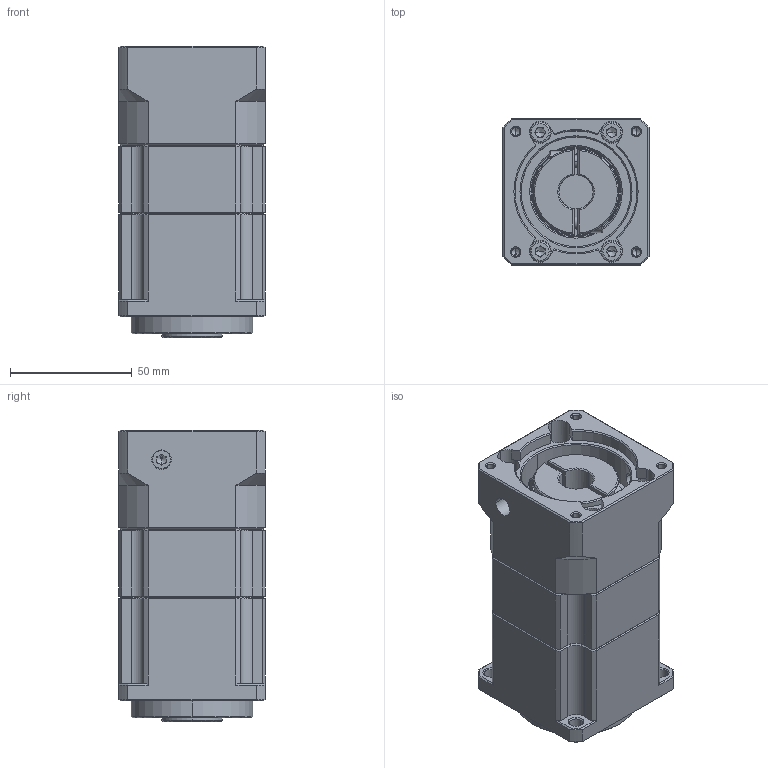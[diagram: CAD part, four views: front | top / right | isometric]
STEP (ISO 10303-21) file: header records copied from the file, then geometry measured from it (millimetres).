
FILE_DESCRIPTION (( 'STEP AP214' ), '1' );
FILE_NAME ('ZPB060-K16-L2-P1-14-50-70-M4.step', '2024-04-24T07:36:03', ( '' ), ( '' ), 'SwSTEP 2.0', 'SolidWorks 2016', '' );
FILE_SCHEMA (( 'AUTOMOTIVE_DESIGN' ));
Length unit declared in the file: millimetre
Products named in the file (1): ZPB060-K16-L2-P1-14-50-70-M4
Bounding box: 60 x 60 x 119.5 mm (x, y, z)
Volume: 332566.7 mm3; surface area: 71135.8 mm2
Topology: 13 solids, 14 shells, 1899 faces, 5368 edges, 3482 vertices
Faces by surface type: plane 1034, bspline 366, cylinder 215, cone 146, torus 92, sphere 46
Entity records: 97738 total; most frequent: CARTESIAN_POINT 30893, ORIENTED_EDGE 10466, DIRECTION 7958, EDGE_CURVE 5233, VERTEX_POINT 3413, LINE 3216, VECTOR 3216, AXIS2_PLACEMENT_3D 2371
